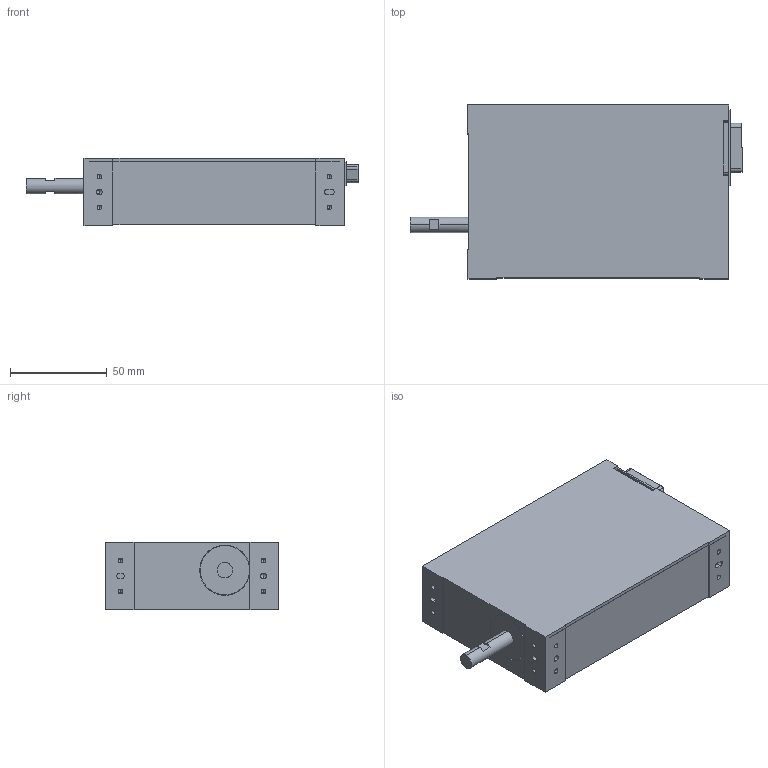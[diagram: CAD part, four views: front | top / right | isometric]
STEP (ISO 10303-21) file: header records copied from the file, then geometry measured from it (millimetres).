
FILE_DESCRIPTION((''),'2;1');
FILE_NAME('LAL35-025-6_C.stp','2005-09-15T15:20:57',(''),(''),'Mechanical Desktop 2005','Mechanical Desktop 2005',', , ');
FILE_SCHEMA(('CONFIG_CONTROL_DESIGN'));
Length unit declared in the file: millimetre
Products named in the file (3): LAL35-025-6_C; ~~BODY-2; DB26-3Ddwg
Assembly tree (2 placements, depth 2):
  LAL35-025-6_C
    ~~BODY-2
    DB26-3Ddwg
Bounding box: 171.81 x 90 x 35 mm (x, y, z)
Volume: 418499.1 mm3; surface area: 68125.7 mm2
Topology: 2 solids, 2 shells, 319 faces, 760 edges, 487 vertices
Faces by surface type: cylinder 172, plane 125, cone 22
Entity records: 9335 total; most frequent: DIRECTION 1742, CARTESIAN_POINT 1546, ORIENTED_EDGE 1474, EDGE_CURVE 737, AXIS2_PLACEMENT_3D 682, VERTEX_POINT 485, EDGE_LOOP 394, VECTOR 378
